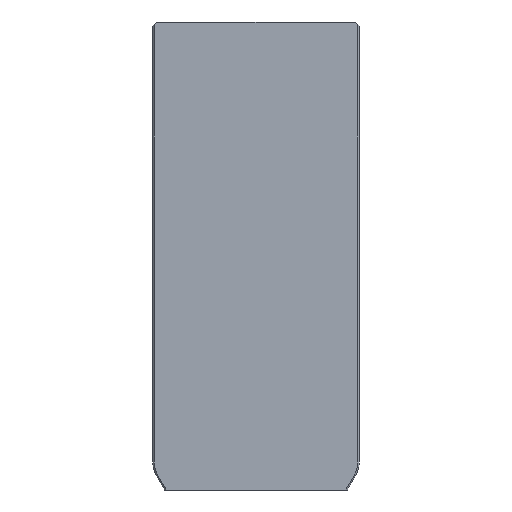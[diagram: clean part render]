
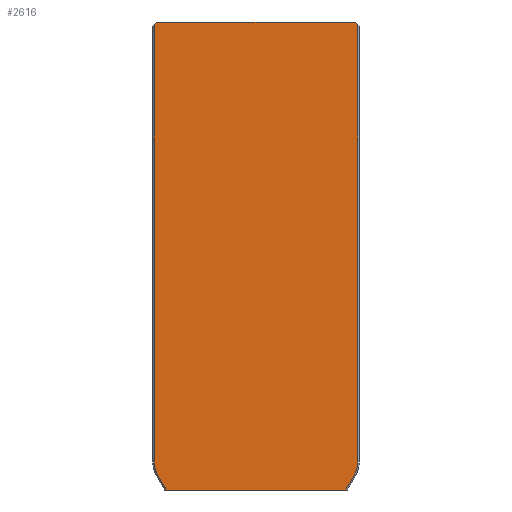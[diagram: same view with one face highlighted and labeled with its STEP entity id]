
A CAD part, left-side view. The second image highlights one B-rep face of the part: STEP entity #2616.
In plain terms, the highlighted planar face has unit normal (-1, 0, 0).
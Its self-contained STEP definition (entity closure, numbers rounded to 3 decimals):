
#271=VERTEX_POINT(' ',#272);
#272=CARTESIAN_POINT('',(-60.,72.,0.));
#273=VERTEX_POINT(' ',#274);
#274=CARTESIAN_POINT('',(-60.,-72.,0.));
#285=VERTEX_POINT(' ',#286);
#286=CARTESIAN_POINT('',(-60.,74.,-2.));
#295=VERTEX_POINT(' ',#296);
#296=CARTESIAN_POINT('',(-60.,74.,-160.));
#297=VERTEX_POINT(' ',#298);
#298=CARTESIAN_POINT('',(-60.,74.,-319.641));
#299=VERTEX_POINT(' ',#300);
#300=CARTESIAN_POINT('',(-60.,71.454,-329.141));
#301=VERTEX_POINT(' ',#302);
#302=CARTESIAN_POINT('',(-60.,65.185,-340.));
#305=VERTEX_POINT(' ',#306);
#306=CARTESIAN_POINT('',(-60.,-65.185,-340.));
#315=VERTEX_POINT(' ',#316);
#316=CARTESIAN_POINT('',(-60.,-74.,-2.));
#317=VERTEX_POINT(' ',#318);
#318=CARTESIAN_POINT('',(-60.,-71.454,-329.141));
#319=VERTEX_POINT(' ',#320);
#320=CARTESIAN_POINT('',(-60.,-74.,-319.641));
#321=VERTEX_POINT(' ',#322);
#322=CARTESIAN_POINT('',(-60.,-74.,-160.));
#1119=LINE('',#1120,#1121);
#1120=CARTESIAN_POINT('',(-60.,75.12,0.));
#1121=VECTOR('',#1122,1.);
#1122=DIRECTION('',(0.,-1.,0.));
#1123=EDGE_CURVE(' ',#271,#273,#1119,.T.);
#1189=LINE('',#1190,#1191);
#1190=CARTESIAN_POINT('',(-60.,36.,36.));
#1191=VECTOR('',#1192,1.);
#1192=DIRECTION('',(0.,0.707,-0.707));
#1193=EDGE_CURVE(' ',#285,#271,#1189,.F.);
#1245=LINE('',#1246,#1247);
#1246=CARTESIAN_POINT('',(-60.,74.,-160.));
#1247=VECTOR('',#1248,1.);
#1248=DIRECTION('',(0.,0.,1.));
#1249=EDGE_CURVE(' ',#295,#285,#1245,.T.);
#1255=LINE('',#1256,#1257);
#1256=CARTESIAN_POINT('',(-60.,74.,-319.641));
#1257=VECTOR('',#1258,1.);
#1258=DIRECTION('',(0.,0.,1.));
#1259=EDGE_CURVE(' ',#297,#295,#1255,.T.);
#1265=CIRCLE('',#1266,19.);
#1266=AXIS2_PLACEMENT_3D('',#1267,#1268,#1269);
#1267=CARTESIAN_POINT('',(-60.,55.,-319.641));
#1268=DIRECTION('',(1.,0.,0.));
#1269=DIRECTION('',(0.,-0.966,0.259));
#1270=EDGE_CURVE(' ',#299,#297,#1265,.T.);
#1276=LINE('',#1277,#1278);
#1277=CARTESIAN_POINT('',(-60.,62.645,-344.399));
#1278=VECTOR('',#1279,1.);
#1279=DIRECTION('',(0.,0.5,0.866));
#1280=EDGE_CURVE(' ',#301,#299,#1276,.T.);
#1286=LINE('',#1287,#1288);
#1287=CARTESIAN_POINT('',(-60.,75.12,-340.));
#1288=VECTOR('',#1289,1.);
#1289=DIRECTION('',(0.,-1.,0.));
#1290=EDGE_CURVE(' ',#305,#301,#1286,.F.);
#1342=LINE('',#1343,#1344);
#1343=CARTESIAN_POINT('',(-60.,-36.,36.));
#1344=VECTOR('',#1345,1.);
#1345=DIRECTION('',(0.,0.707,0.707));
#1346=EDGE_CURVE(' ',#273,#315,#1342,.F.);
#1347=LINE('',#1348,#1349);
#1348=CARTESIAN_POINT('',(-60.,-71.454,-329.141));
#1349=VECTOR('',#1350,1.);
#1350=DIRECTION('',(0.,0.5,-0.866));
#1351=EDGE_CURVE(' ',#317,#305,#1347,.T.);
#1352=CIRCLE('',#1353,19.);
#1353=AXIS2_PLACEMENT_3D('',#1354,#1355,#1356);
#1354=CARTESIAN_POINT('',(-60.,-55.,-319.641));
#1355=DIRECTION('',(1.,0.,0.));
#1356=DIRECTION('',(0.,0.966,0.259));
#1357=EDGE_CURVE(' ',#319,#317,#1352,.T.);
#1358=LINE('',#1359,#1360);
#1359=CARTESIAN_POINT('',(-60.,-74.,-160.));
#1360=VECTOR('',#1361,1.);
#1361=DIRECTION('',(0.,0.,-1.));
#1362=EDGE_CURVE(' ',#321,#319,#1358,.T.);
#1363=LINE('',#1364,#1365);
#1364=CARTESIAN_POINT('',(-60.,-74.,2.657));
#1365=VECTOR('',#1366,1.);
#1366=DIRECTION('',(0.,0.,-1.));
#1367=EDGE_CURVE(' ',#315,#321,#1363,.T.);
#2597=ORIENTED_EDGE('',*,*,#1351,.F.);
#2598=ORIENTED_EDGE('',*,*,#1357,.F.);
#2599=ORIENTED_EDGE('',*,*,#1362,.F.);
#2600=ORIENTED_EDGE('',*,*,#1367,.F.);
#2601=ORIENTED_EDGE('',*,*,#1346,.F.);
#2602=ORIENTED_EDGE('',*,*,#1123,.F.);
#2603=ORIENTED_EDGE('',*,*,#1193,.F.);
#2604=ORIENTED_EDGE('',*,*,#1249,.F.);
#2605=ORIENTED_EDGE('',*,*,#1259,.F.);
#2606=ORIENTED_EDGE('',*,*,#1270,.F.);
#2607=ORIENTED_EDGE('',*,*,#1280,.F.);
#2608=ORIENTED_EDGE('',*,*,#1290,.F.);
#2609=EDGE_LOOP('',(#2597,#2598,#2599,#2600,#2601,#2602,#2603,#2604,#2605,#2606,#2607,#2608));
#2610=FACE_OUTER_BOUND('',#2609,.T.);
#2611=PLANE('',#2612);
#2612=AXIS2_PLACEMENT_3D('',#2613,#2614,#2615);
#2613=CARTESIAN_POINT('',(-60.,0.,0.));
#2614=DIRECTION('',(-1.,0.,0.));
#2615=DIRECTION('',(0.,0.,-1.));
#2616=ADVANCED_FACE('',(#2610),#2611,.T.);
